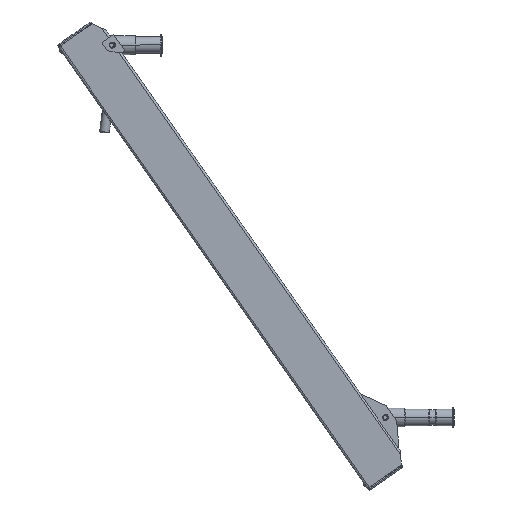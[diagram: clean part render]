
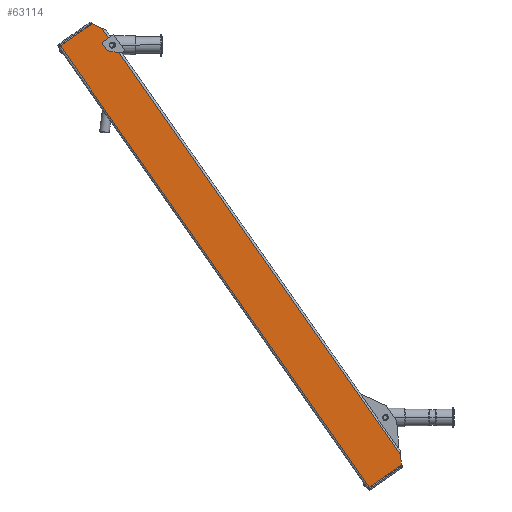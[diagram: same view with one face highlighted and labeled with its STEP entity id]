
A CAD part, left-side view. The second image highlights one B-rep face of the part: STEP entity #63114.
In plain terms, the highlighted planar face has unit normal (-1, 0, 0).
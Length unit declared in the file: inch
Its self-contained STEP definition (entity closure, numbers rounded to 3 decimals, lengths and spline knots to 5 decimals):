
#1218 = VECTOR ( 'NONE', #26968, 39.37008 ) ;
#2633 = CARTESIAN_POINT ( 'NONE',  ( -1.5, -2.5, 0.64952 ) ) ;
#2873 = CARTESIAN_POINT ( 'NONE',  ( -1.5, -0.1, 28. ) ) ;
#4263 = PLANE ( 'NONE',  #13818 ) ;
#4438 = VECTOR ( 'NONE', #63570, 39.37008 ) ;
#7221 = CARTESIAN_POINT ( 'NONE',  ( -1.5, -2.17438, 26.5 ) ) ;
#7500 = CARTESIAN_POINT ( 'NONE',  ( -1.5, -2.315, 26.5 ) ) ;
#7575 = CARTESIAN_POINT ( 'NONE',  ( -1.5, -2.4, 0.47631 ) ) ;
#7805 = ORIENTED_EDGE ( 'NONE', *, *, #28303, .T. ) ;
#9581 = CIRCLE ( 'NONE', #29730, 0.14062 ) ;
#10859 = DIRECTION ( 'NONE',  ( 0., 1., 0. ) ) ;
#10863 = ORIENTED_EDGE ( 'NONE', *, *, #12344, .T. ) ;
#11537 = CARTESIAN_POINT ( 'NONE',  ( -1.5, -2.5, 26.375 ) ) ;
#12320 = LINE ( 'NONE', #37571, #1218 ) ;
#12344 = EDGE_CURVE ( 'NONE', #62998, #27511, #64310, .T. ) ;
#12393 = DIRECTION ( 'NONE',  ( 0., 0.5, 0.866 ) ) ;
#13818 = AXIS2_PLACEMENT_3D ( 'NONE', #49384, #18866, #53403 ) ;
#15078 = VERTEX_POINT ( 'NONE', #60028 ) ;
#15410 = LINE ( 'NONE', #29716, #16025 ) ;
#16025 = VECTOR ( 'NONE', #35018, 39.37008 ) ;
#16205 = CARTESIAN_POINT ( 'NONE',  ( -1.5, -2.37942, 26.375 ) ) ;
#16732 = CARTESIAN_POINT ( 'NONE',  ( -1.5, -2.5, 27.35048 ) ) ;
#17936 = EDGE_CURVE ( 'NONE', #18847, #27511, #15410, .T. ) ;
#18298 = ORIENTED_EDGE ( 'NONE', *, *, #41917, .T. ) ;
#18847 = VERTEX_POINT ( 'NONE', #28392 ) ;
#18862 = DIRECTION ( 'NONE',  ( 0., -0.5, 0.866 ) ) ;
#18866 = DIRECTION ( 'NONE',  ( -1., 0., 0. ) ) ;
#19263 = EDGE_CURVE ( 'NONE', #62998, #32862, #24396, .T. ) ;
#20073 = DIRECTION ( 'NONE',  ( 0., 1., 0. ) ) ;
#21987 = CARTESIAN_POINT ( 'NONE',  ( -1.5, -2.315, 26.5 ) ) ;
#24113 = VERTEX_POINT ( 'NONE', #56713 ) ;
#24396 = LINE ( 'NONE', #35333, #54502 ) ;
#26384 = LINE ( 'NONE', #16732, #59027 ) ;
#26968 = DIRECTION ( 'NONE',  ( 0., 0., -1. ) ) ;
#27140 = LINE ( 'NONE', #11537, #49266 ) ;
#27325 = VERTEX_POINT ( 'NONE', #16205 ) ;
#27392 = VERTEX_POINT ( 'NONE', #32134 ) ;
#27511 = VERTEX_POINT ( 'NONE', #7575 ) ;
#28303 = EDGE_CURVE ( 'NONE', #27325, #48172, #9581, .T. ) ;
#28392 = CARTESIAN_POINT ( 'NONE',  ( -1.5, -2.4, 26.375 ) ) ;
#29716 = CARTESIAN_POINT ( 'NONE',  ( -1.5, -2.4, 28. ) ) ;
#29730 = AXIS2_PLACEMENT_3D ( 'NONE', #7500, #52631, #58238 ) ;
#30329 = VECTOR ( 'NONE', #57632, 39.37008 ) ;
#30529 = ORIENTED_EDGE ( 'NONE', *, *, #48038, .T. ) ;
#31776 = LINE ( 'NONE', #57323, #30329 ) ;
#32102 = CARTESIAN_POINT ( 'NONE',  ( -1.5, -2.125, 28. ) ) ;
#32134 = CARTESIAN_POINT ( 'NONE',  ( -1.5, -2.37942, 26.625 ) ) ;
#32862 = VERTEX_POINT ( 'NONE', #53103 ) ;
#33072 = LINE ( 'NONE', #2873, #4438 ) ;
#33575 = CARTESIAN_POINT ( 'NONE',  ( -1.5, -0.1, 28. ) ) ;
#33756 = VERTEX_POINT ( 'NONE', #46776 ) ;
#35018 = DIRECTION ( 'NONE',  ( 0., 0., -1. ) ) ;
#35333 = CARTESIAN_POINT ( 'NONE',  ( -1.5, -0.1, 0. ) ) ;
#36553 = AXIS2_PLACEMENT_3D ( 'NONE', #21987, #38756, #49694 ) ;
#36859 = ORIENTED_EDGE ( 'NONE', *, *, #17936, .F. ) ;
#37571 = CARTESIAN_POINT ( 'NONE',  ( -1.5, -2.4, 28. ) ) ;
#38756 = DIRECTION ( 'NONE',  ( 1., 0., 0. ) ) ;
#39704 = CIRCLE ( 'NONE', #36553, 0.14062 ) ;
#40363 = ORIENTED_EDGE ( 'NONE', *, *, #46385, .T. ) ;
#41503 = EDGE_CURVE ( 'NONE', #33756, #32862, #64743, .T. ) ;
#41917 = EDGE_CURVE ( 'NONE', #53253, #33756, #33072, .T. ) ;
#42152 = CARTESIAN_POINT ( 'NONE',  ( -1.5, -2.125, 0. ) ) ;
#44421 = FACE_OUTER_BOUND ( 'NONE', #58802, .T. ) ;
#44666 = VECTOR ( 'NONE', #18862, 39.37008 ) ;
#45587 = ORIENTED_EDGE ( 'NONE', *, *, #51151, .T. ) ;
#45847 = ORIENTED_EDGE ( 'NONE', *, *, #64203, .F. ) ;
#46385 = EDGE_CURVE ( 'NONE', #48172, #27392, #39704, .T. ) ;
#46776 = CARTESIAN_POINT ( 'NONE',  ( -1.5, -0.1, 28. ) ) ;
#48038 = EDGE_CURVE ( 'NONE', #18847, #27325, #27140, .T. ) ;
#48172 = VERTEX_POINT ( 'NONE', #7221 ) ;
#48184 = DIRECTION ( 'NONE',  ( 0., 0., -1. ) ) ;
#49266 = VECTOR ( 'NONE', #10859, 39.37008 ) ;
#49384 = CARTESIAN_POINT ( 'NONE',  ( -1.5, -0.1, 28. ) ) ;
#49694 = DIRECTION ( 'NONE',  ( 0., 1., 0. ) ) ;
#51151 = EDGE_CURVE ( 'NONE', #27392, #24113, #31776, .T. ) ;
#51408 = ORIENTED_EDGE ( 'NONE', *, *, #57554, .T. ) ;
#52108 = VECTOR ( 'NONE', #48184, 39.37008 ) ;
#52631 = DIRECTION ( 'NONE',  ( 1., 0., 0. ) ) ;
#53103 = CARTESIAN_POINT ( 'NONE',  ( -1.5, -0.1, 0. ) ) ;
#53253 = VERTEX_POINT ( 'NONE', #32102 ) ;
#53403 = DIRECTION ( 'NONE',  ( 0., -1., 0. ) ) ;
#54073 = ORIENTED_EDGE ( 'NONE', *, *, #19263, .F. ) ;
#54502 = VECTOR ( 'NONE', #20073, 39.37008 ) ;
#56713 = CARTESIAN_POINT ( 'NONE',  ( -1.5, -2.4, 26.625 ) ) ;
#57323 = CARTESIAN_POINT ( 'NONE',  ( -1.5, -2.5, 26.625 ) ) ;
#57554 = EDGE_CURVE ( 'NONE', #15078, #53253, #26384, .T. ) ;
#57632 = DIRECTION ( 'NONE',  ( 0., -1., 0. ) ) ;
#58238 = DIRECTION ( 'NONE',  ( 0., 1., 0. ) ) ;
#58802 = EDGE_LOOP ( 'NONE', ( #51408, #18298, #62248, #54073, #10863, #36859, #30529, #7805, #40363, #45587, #45847 ) ) ;
#59027 = VECTOR ( 'NONE', #12393, 39.37008 ) ;
#60028 = CARTESIAN_POINT ( 'NONE',  ( -1.5, -2.4, 27.52369 ) ) ;
#62248 = ORIENTED_EDGE ( 'NONE', *, *, #41503, .T. ) ;
#62998 = VERTEX_POINT ( 'NONE', #42152 ) ;
#63114 = ADVANCED_FACE ( 'NONE', ( #44421 ), #4263, .T. ) ;
#63570 = DIRECTION ( 'NONE',  ( 0., 1., 0. ) ) ;
#64203 = EDGE_CURVE ( 'NONE', #15078, #24113, #12320, .T. ) ;
#64310 = LINE ( 'NONE', #2633, #44666 ) ;
#64743 = LINE ( 'NONE', #33575, #52108 ) ;
